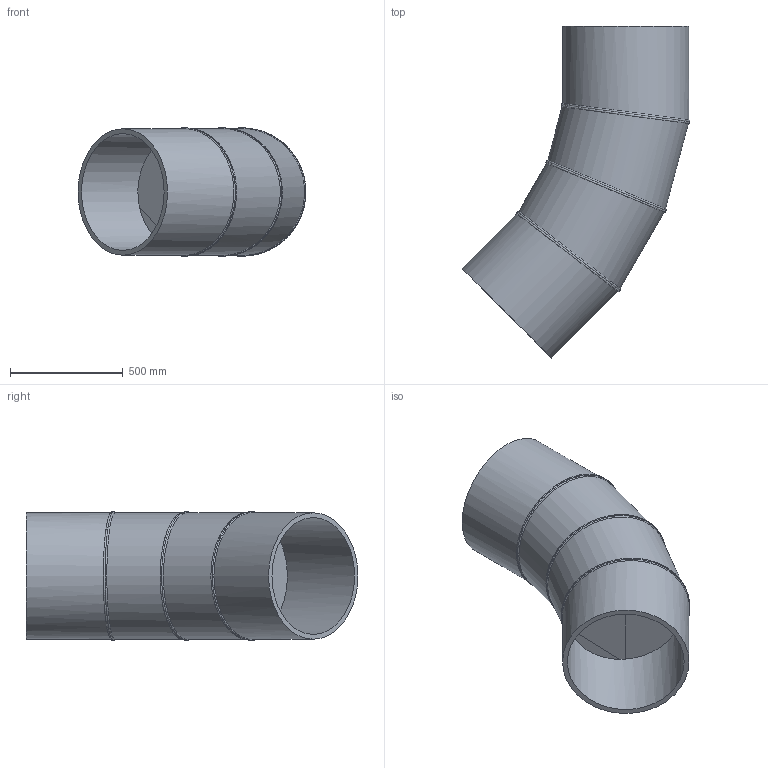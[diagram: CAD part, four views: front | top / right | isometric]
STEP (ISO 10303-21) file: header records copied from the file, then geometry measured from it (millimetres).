
FILE_DESCRIPTION(/* description */ ('Unknown'),/* implementation_level */ '2;1');
FILE_NAME(/* name */ 'Curva 45° a settore DE560 SDR26.',/* time_stamp */ '2022-07-26T10:03:01+02:00',/* author */ ('Unknown'),/* organization */ ('Unknown'),/* preprocessor_version */ 'ST-DEVELOPER v18.102',/* originating_system */ 'Solid Edge',/* authorisation */ 'Unknown');
FILE_SCHEMA (('AUTOMOTIVE_DESIGN {1 0 10303 214 3 1 1}'));
Length unit declared in the file: millimetre
Products named in the file (3): Curva 45° a settore DE560 SDR26.; Tubo x Gomito 45° DE560 SDR26 - 1; Tubo x Gomito 45° DE560 SDR26 - 2
Assembly tree (4 placements, depth 2):
  Curva 45° a settore DE560 SDR26.
    Tubo x Gomito 45° DE560 SDR26 - 1  x2
    Tubo x Gomito 45° DE560 SDR26 - 2  x2
Bounding box: 1008.77 x 1469.77 x 567.99 mm (x, y, z)
Volume: 52453402.2 mm3; surface area: 5218296.9 mm2
Topology: 4 solids, 4 shells, 34 faces, 74 edges, 48 vertices
Faces by surface type: cylinder 20, plane 8, bspline 6
Full cylindrical faces by diameter (mm): 517.2 x4, 560 x4
Entity records: 3476 total; most frequent: CARTESIAN_POINT 3074, DIRECTION 72, ORIENTED_EDGE 52, AXIS2_PLACEMENT_3D 36, EDGE_LOOP 28, FACE_BOUND 28, EDGE_CURVE 26, VERTEX_POINT 20
